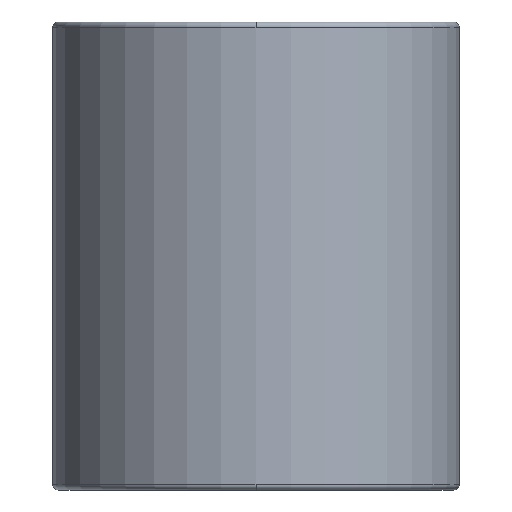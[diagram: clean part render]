
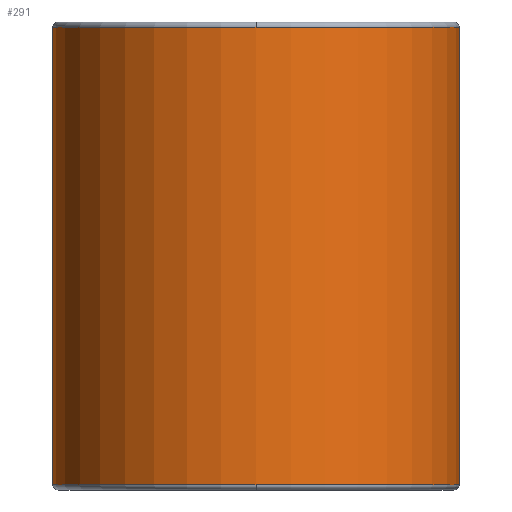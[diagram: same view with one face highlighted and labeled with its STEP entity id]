
A CAD part, front view. The second image highlights one B-rep face of the part: STEP entity #291.
In plain terms, the highlighted cylindrical face has radius 15.625 mm (diameter 31.25 mm), a partial arc.
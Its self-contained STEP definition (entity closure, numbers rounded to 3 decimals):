
#196=CARTESIAN_POINT('',(0.0,-15.625,24.1));
#197=VERTEX_POINT('',#196);
#223=CARTESIAN_POINT('',(-15.625,0.,24.1));
#224=VERTEX_POINT('',#223);
#232=CARTESIAN_POINT('',(0.0,0.,24.1));
#233=DIRECTION('',(0.0,0.0,1.0));
#234=DIRECTION('',(1.0,0.0,0.0));
#235=AXIS2_PLACEMENT_3D('',#232,#233,#234);
#236=CIRCLE('',#235,15.625);
#237=EDGE_CURVE('',#224,#197,#236,.T.);
#242=CARTESIAN_POINT('',(0.0,0.,6.5));
#243=DIRECTION('',(0.0,0.,1.0));
#244=DIRECTION('',(1.0,0.0,0.0));
#245=AXIS2_PLACEMENT_3D('',#242,#243,#244);
#246=CYLINDRICAL_SURFACE('',#245,15.625);
#247=CARTESIAN_POINT('',(15.625,0.,24.1));
#248=VERTEX_POINT('',#247);
#249=CARTESIAN_POINT('',(15.625,0.,-11.1));
#250=VERTEX_POINT('',#249);
#251=CARTESIAN_POINT('',(15.625,0.,24.1));
#252=DIRECTION('',(0.0,0.0,-1.0));
#253=VECTOR('',#252,35.2);
#254=LINE('',#251,#253);
#255=EDGE_CURVE('',#248,#250,#254,.T.);
#256=ORIENTED_EDGE('',*,*,#255,.F.);
#257=CARTESIAN_POINT('',(0.0,0.,24.1));
#258=DIRECTION('',(0.0,0.0,1.0));
#259=DIRECTION('',(1.0,0.0,0.0));
#260=AXIS2_PLACEMENT_3D('',#257,#258,#259);
#261=CIRCLE('',#260,15.625);
#262=EDGE_CURVE('',#197,#248,#261,.T.);
#263=ORIENTED_EDGE('',*,*,#262,.F.);
#264=ORIENTED_EDGE('',*,*,#237,.F.);
#265=CARTESIAN_POINT('',(-15.625,0.,-11.1));
#266=VERTEX_POINT('',#265);
#267=CARTESIAN_POINT('',(-15.625,0.,24.1));
#268=DIRECTION('',(0.0,0.0,-1.0));
#269=VECTOR('',#268,35.2);
#270=LINE('',#267,#269);
#271=EDGE_CURVE('',#224,#266,#270,.T.);
#272=ORIENTED_EDGE('',*,*,#271,.T.);
#273=CARTESIAN_POINT('',(0.0,-15.625,-11.1));
#274=VERTEX_POINT('',#273);
#275=CARTESIAN_POINT('',(0.0,0.,-11.1));
#276=DIRECTION('',(0.0,0.0,1.0));
#277=DIRECTION('',(1.0,0.0,0.0));
#278=AXIS2_PLACEMENT_3D('',#275,#276,#277);
#279=CIRCLE('',#278,15.625);
#280=EDGE_CURVE('',#266,#274,#279,.T.);
#281=ORIENTED_EDGE('',*,*,#280,.T.);
#282=CARTESIAN_POINT('',(0.0,0.,-11.1));
#283=DIRECTION('',(0.0,0.0,1.0));
#284=DIRECTION('',(1.0,0.0,0.0));
#285=AXIS2_PLACEMENT_3D('',#282,#283,#284);
#286=CIRCLE('',#285,15.625);
#287=EDGE_CURVE('',#274,#250,#286,.T.);
#288=ORIENTED_EDGE('',*,*,#287,.T.);
#289=EDGE_LOOP('',(#256,#263,#264,#272,#281,#288));
#290=FACE_OUTER_BOUND('',#289,.T.);
#291=ADVANCED_FACE('',(#290),#246,.T.);
